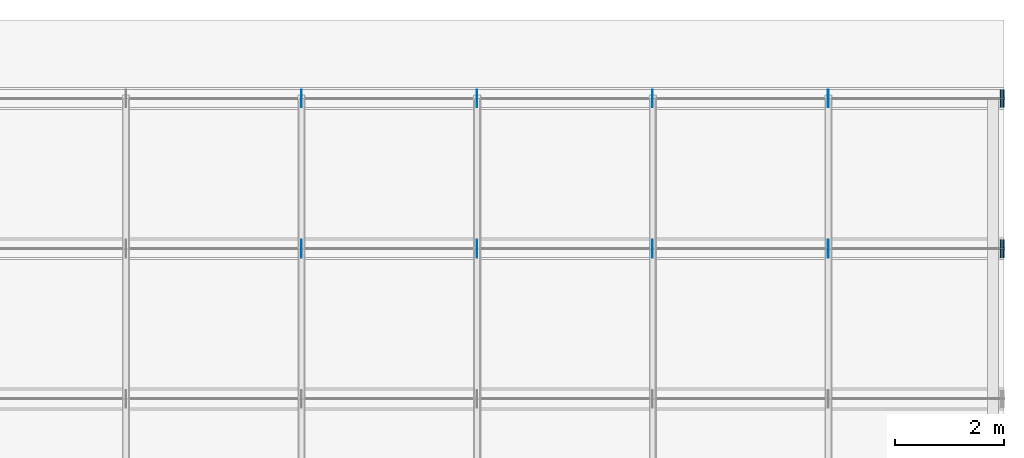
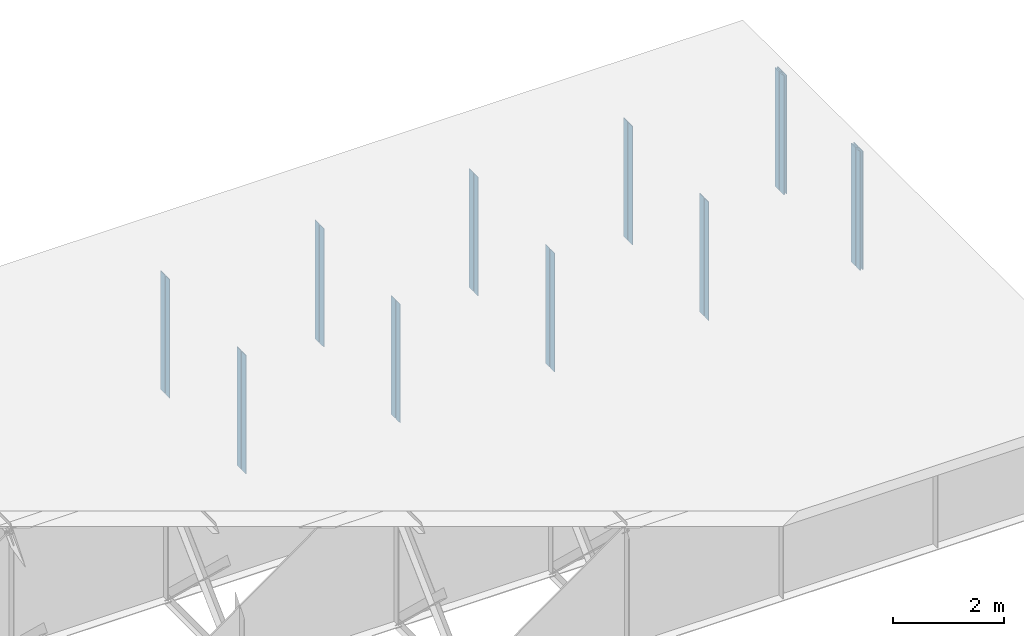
# One storey, part 20 of 20: 24 plates.
"""IFC4 building model written with IfcOpenShell, lengths in metres."""

from ifc_helpers import new_model, si_unit, frame, origin, origin_with_axes, origin_2d_with_axis, place, context, subcontext, project, spatial, rectangle, extrude, element, save


model = new_model("IFC4")

# Units and contexts
model_context = context("Model", 3, precision=1e-05, world=origin())
body_context = subcontext(model_context, "Body", "Model", "MODEL_VIEW")
ifc_project = project(units=[si_unit("LENGTHUNIT", "METRE"), si_unit("AREAUNIT", "SQUARE_METRE"), si_unit("VOLUMEUNIT", "CUBIC_METRE"), si_unit("PLANEANGLEUNIT", "RADIAN")], contexts=[model_context])

# Site, building, storey
site_placement = place(None, origin_with_axes())
site = spatial("IfcSite", under=ifc_project, at=site_placement, Name="Default Site")
building_placement = place(site_placement, origin_with_axes())
building = spatial("IfcBuilding", under=site, at=building_placement, Name="Bridge Structure")
storey_placement = place(building_placement, origin_with_axes())
storey = spatial("IfcBuildingStorey", under=building, at=storey_placement, Name="Superstructure")

# Plates
for number, where, z_axis, x_axis, name in (
    (1, (32.14, 2.83575, -1.307), (0.0, 0.0, 1.0), (1.0, 0.0, 0.0), "Intermediate Stiffener 4"),
    (2, (32.14, 2.66425, -1.307), (0.0, 0.0, 1.0), (1.0, 0.0, 0.0), "Intermediate Stiffener 4"),
    (3, (35.354, 2.83575, -1.307), (0.0, 0.0, 1.0), (1.0, 0.0, 0.0), "Intermediate Stiffener 4"),
    (4, (35.354, 2.66425, -1.307), (0.0, 0.0, 1.0), (1.0, 0.0, 0.0), "Intermediate Stiffener 4"),
    (5, (38.568, 2.83575, -1.307), (0.0, 0.0, 1.0), (1.0, 0.0, 0.0), "Intermediate Stiffener 4"),
    (6, (38.568, 2.66425, -1.307), (0.0, 0.0, 1.0), (1.0, 0.0, 0.0), "Intermediate Stiffener 4"),
    (7, (41.782000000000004, 2.83575, -1.307), (0.0, 0.0, 1.0), (1.0, 0.0, 0.0), "Intermediate Stiffener 4"),
    (8, (41.782000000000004, 2.66425, -1.307), (0.0, 0.0, 1.0), (1.0, 0.0, 0.0), "Intermediate Stiffener 4"),
):
    element("IfcPlate", number, at=place(storey_placement, frame(where, z_axis=z_axis, x_axis=x_axis)), inside=storey, Name=name, context=body_context, shape_type="SweptSolid", body=[
        extrude(rectangle(XDim=0.012, YDim=0.1535, at=origin_2d_with_axis()), origin_with_axes(), (0.0, 0.0, 1.0), 2.614),
    ])
for number, where, z_axis, x_axis, name in (
    (9, (44.99, 2.83575, -1.307), (0.0, 0.0, 1.0), (1.0, 0.0, 0.0), "End Stiffener 4"),
    (10, (44.99, 2.66425, -1.307), (0.0, 0.0, 1.0), (1.0, 0.0, 0.0), "End Stiffener 4"),
    (11, (44.94, 2.83575, -1.307), (0.0, 0.0, 1.0), (1.0, 0.0, 0.0), "End Stiffener 4"),
    (12, (44.94, 2.66425, -1.307), (0.0, 0.0, 1.0), (1.0, 0.0, 0.0), "End Stiffener 4"),
):
    element("IfcPlate", number, at=place(storey_placement, frame(where, z_axis=z_axis, x_axis=x_axis)), inside=storey, Name=name, context=body_context, shape_type="SweptSolid", body=[
        extrude(rectangle(XDim=0.02, YDim=0.1535, at=origin_2d_with_axis()), origin_with_axes(), (0.0, 0.0, 1.0), 2.614),
    ])
for number, where, z_axis, x_axis, name in (
    (13, (32.14, 5.58575, -1.307), (0.0, 0.0, 1.0), (1.0, 0.0, 0.0), "Intermediate Stiffener 5"),
    (14, (32.14, 5.41425, -1.307), (0.0, 0.0, 1.0), (1.0, 0.0, 0.0), "Intermediate Stiffener 5"),
    (15, (35.354, 5.58575, -1.307), (0.0, 0.0, 1.0), (1.0, 0.0, 0.0), "Intermediate Stiffener 5"),
    (16, (35.354, 5.41425, -1.307), (0.0, 0.0, 1.0), (1.0, 0.0, 0.0), "Intermediate Stiffener 5"),
    (17, (38.568, 5.58575, -1.307), (0.0, 0.0, 1.0), (1.0, 0.0, 0.0), "Intermediate Stiffener 5"),
    (18, (38.568, 5.41425, -1.307), (0.0, 0.0, 1.0), (1.0, 0.0, 0.0), "Intermediate Stiffener 5"),
    (19, (41.782000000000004, 5.58575, -1.307), (0.0, 0.0, 1.0), (1.0, 0.0, 0.0), "Intermediate Stiffener 5"),
    (20, (41.782000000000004, 5.41425, -1.307), (0.0, 0.0, 1.0), (1.0, 0.0, 0.0), "Intermediate Stiffener 5"),
):
    element("IfcPlate", number, at=place(storey_placement, frame(where, z_axis=z_axis, x_axis=x_axis)), inside=storey, Name=name, context=body_context, shape_type="SweptSolid", body=[
        extrude(rectangle(XDim=0.012, YDim=0.1535, at=origin_2d_with_axis()), origin_with_axes(), (0.0, 0.0, 1.0), 2.614),
    ])
for number, where, z_axis, x_axis, name in (
    (21, (44.99, 5.58575, -1.307), (0.0, 0.0, 1.0), (1.0, 0.0, 0.0), "End Stiffener 5"),
    (22, (44.99, 5.41425, -1.307), (0.0, 0.0, 1.0), (1.0, 0.0, 0.0), "End Stiffener 5"),
    (23, (44.94, 5.58575, -1.307), (0.0, 0.0, 1.0), (1.0, 0.0, 0.0), "End Stiffener 5"),
    (24, (44.94, 5.41425, -1.307), (0.0, 0.0, 1.0), (1.0, 0.0, 0.0), "End Stiffener 5"),
):
    element("IfcPlate", number, at=place(storey_placement, frame(where, z_axis=z_axis, x_axis=x_axis)), inside=storey, Name=name, context=body_context, shape_type="SweptSolid", body=[
        extrude(rectangle(XDim=0.02, YDim=0.1535, at=origin_2d_with_axis()), origin_with_axes(), (0.0, 0.0, 1.0), 2.614),
    ])

save(model, "model.ifc")
